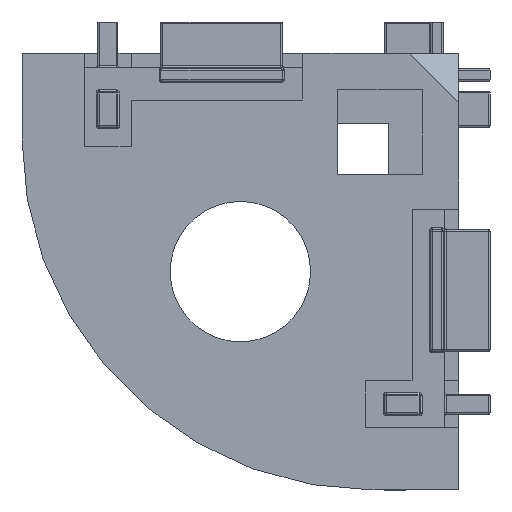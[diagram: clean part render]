
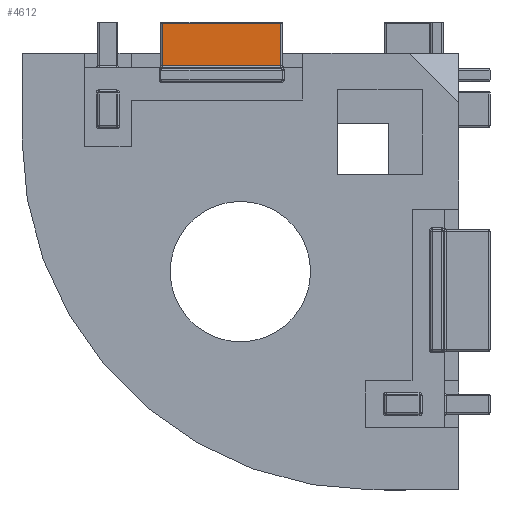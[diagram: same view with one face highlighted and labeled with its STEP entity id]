
A CAD part, left-side view. The second image highlights one B-rep face of the part: STEP entity #4612.
In plain terms, the highlighted planar face has unit normal (-1, 0, 0).
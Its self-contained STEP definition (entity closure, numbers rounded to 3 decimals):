
#124 = ORIENTED_EDGE ( 'NONE', *, *, #8449, .T. ) ;
#125 = ORIENTED_EDGE ( 'NONE', *, *, #8448, .T. ) ;
#126 = ORIENTED_EDGE ( 'NONE', *, *, #8442, .T. ) ;
#127 = ORIENTED_EDGE ( 'NONE', *, *, #8450, .T. ) ;
#1476 = LINE ( 'NONE', #2526, #1480 ) ;
#1480 = VECTOR ( 'NONE', #2511, 1000. ) ;
#1492 = LINE ( 'NONE', #2500, #1493 ) ;
#1493 = VECTOR ( 'NONE', #2499, 1000. ) ;
#1494 = LINE ( 'NONE', #2498, #1495 ) ;
#1495 = VECTOR ( 'NONE', #2497, 1000. ) ;
#1496 = LINE ( 'NONE', #2496, #1497 ) ;
#1497 = VECTOR ( 'NONE', #2495, 1000. ) ;
#1724 = FACE_OUTER_BOUND ( 'NONE', #4868, .T. ) ;
#2495 = DIRECTION ( 'NONE',  ( 0., 0., 1. ) ) ;
#2496 = CARTESIAN_POINT ( 'NONE',  ( -13., -2.6, 6.5 ) ) ;
#2497 = DIRECTION ( 'NONE',  ( 0., 1., 0. ) ) ;
#2498 = CARTESIAN_POINT ( 'NONE',  ( -13., -2.7, 6.4 ) ) ;
#2499 = DIRECTION ( 'NONE',  ( 0., 0., -1. ) ) ;
#2500 = CARTESIAN_POINT ( 'NONE',  ( -13., 5., 6.5 ) ) ;
#2511 = DIRECTION ( 'NONE',  ( 0., -1., 0. ) ) ;
#2526 = CARTESIAN_POINT ( 'NONE',  ( -13., -2.7, 3.7 ) ) ;
#4357 = VERTEX_POINT ( 'NONE', #7011 ) ;
#4416 = VERTEX_POINT ( 'NONE', #6953 ) ;
#4612 = ADVANCED_FACE ( 'NONE', ( #1724 ), #7609, .F. ) ;
#4868 = EDGE_LOOP ( 'NONE', ( #124, #125, #126, #127 ) ) ;
#6639 = CARTESIAN_POINT ( 'NONE',  ( -13., 5., 6.4 ) ) ;
#6650 = CARTESIAN_POINT ( 'NONE',  ( -13., 5., 3.7 ) ) ;
#6953 = CARTESIAN_POINT ( 'NONE',  ( -13., -2.6, 3.7 ) ) ;
#7011 = CARTESIAN_POINT ( 'NONE',  ( -13., -2.6, 6.4 ) ) ;
#7189 = VERTEX_POINT ( 'NONE', #6650 ) ;
#7199 = VERTEX_POINT ( 'NONE', #6639 ) ;
#7608 = CARTESIAN_POINT ( 'NONE',  ( -13., -2.7, 6.5 ) ) ;
#7609 = PLANE ( 'NONE',  #8949 ) ;
#7614 = DIRECTION ( 'NONE',  ( 1., 0., 0. ) ) ;
#7615 = DIRECTION ( 'NONE',  ( 0., 0., -1. ) ) ;
#8442 = EDGE_CURVE ( 'NONE', #7189, #4416, #1476, .T. ) ;
#8448 = EDGE_CURVE ( 'NONE', #7199, #7189, #1492, .T. ) ;
#8449 = EDGE_CURVE ( 'NONE', #4357, #7199, #1494, .T. ) ;
#8450 = EDGE_CURVE ( 'NONE', #4416, #4357, #1496, .T. ) ;
#8949 = AXIS2_PLACEMENT_3D ( 'NONE', #7608, #7614, #7615 ) ;
